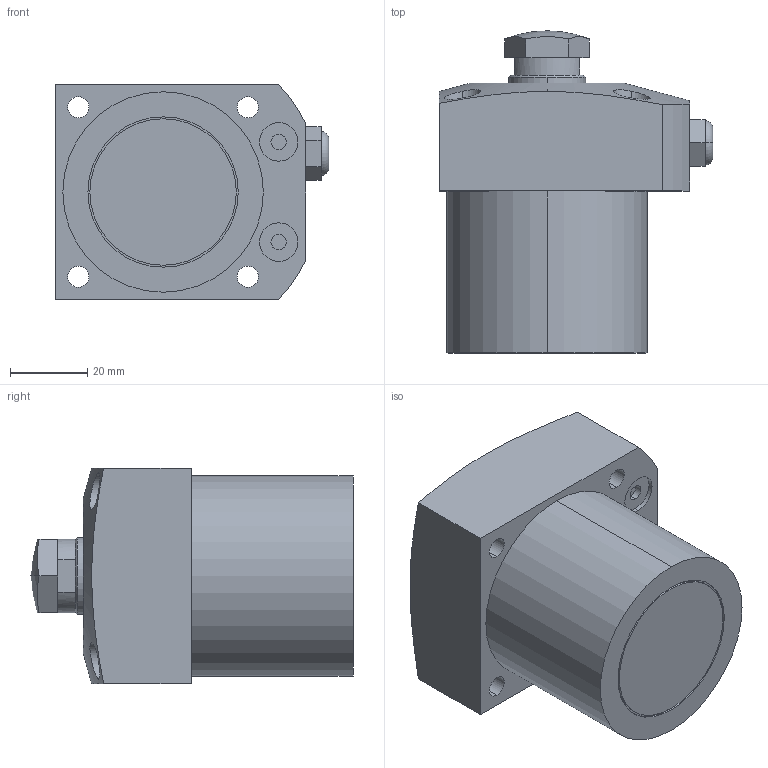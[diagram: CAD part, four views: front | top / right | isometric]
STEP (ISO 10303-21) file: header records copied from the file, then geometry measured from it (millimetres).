
FILE_DESCRIPTION (( 'STEP AP214' ), '1' );
FILE_NAME ('LSP-20B.STEP', '2021-10-18T08:51:18', ( '' ), ( '' ), 'SwSTEP 2.0', 'SolidWorks 2016', '' );
FILE_SCHEMA (( 'AUTOMOTIVE_DESIGN' ));
Length unit declared in the file: millimetre
Products named in the file (1): LSP-20B
Bounding box: 71 x 83.6 x 56 mm (x, y, z)
Volume: 181331.5 mm3; surface area: 24532.1 mm2
Topology: 1 solids, 3 shells, 106 faces, 237 edges, 148 vertices
Faces by surface type: cylinder 47, plane 45, cone 10, torus 2, sphere 2
Entity records: 3345 total; most frequent: CARTESIAN_POINT 826, DIRECTION 541, ORIENTED_EDGE 462, EDGE_CURVE 231, AXIS2_PLACEMENT_3D 217, VERTEX_POINT 148, EDGE_LOOP 131, CIRCLE 110
